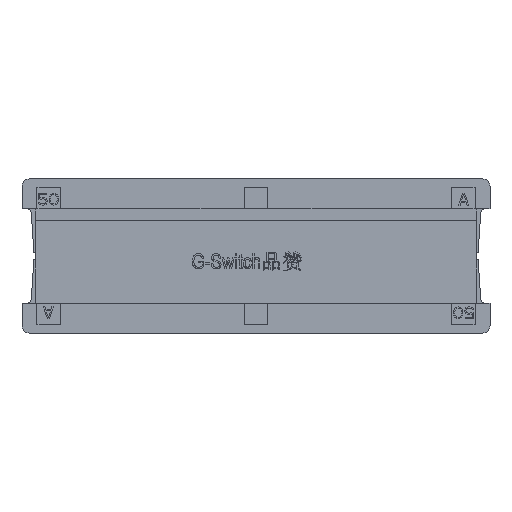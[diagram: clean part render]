
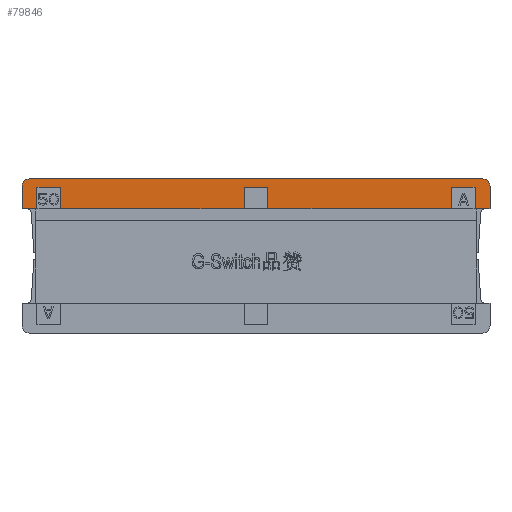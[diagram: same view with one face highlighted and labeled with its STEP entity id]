
A CAD part, front view. The second image highlights one B-rep face of the part: STEP entity #79846.
In plain terms, the highlighted planar face has unit normal (0, -1, 0).
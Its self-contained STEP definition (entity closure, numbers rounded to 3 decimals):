
#439 = VERTEX_POINT ( 'NONE', #17393 ) ;
#950 = VERTEX_POINT ( 'NONE', #146114 ) ;
#2261 = DIRECTION ( 'NONE',  ( 0., 0., 1. ) ) ;
#2960 = EDGE_CURVE ( 'NONE', #42815, #439, #7870, .T. ) ;
#3012 = VECTOR ( 'NONE', #84751, 1000. ) ;
#3740 = ORIENTED_EDGE ( 'NONE', *, *, #2960, .T. ) ;
#4237 = EDGE_CURVE ( 'NONE', #43965, #439, #27915, .T. ) ;
#4557 = CARTESIAN_POINT ( 'NONE',  ( 0.8, 0.105, 3.15 ) ) ;
#6587 = ORIENTED_EDGE ( 'NONE', *, *, #52590, .F. ) ;
#6777 = CARTESIAN_POINT ( 'NONE',  ( -15.15, 0.105, 5.15 ) ) ;
#7870 = CIRCLE ( 'NONE', #26044, 0.5 ) ;
#14094 = EDGE_LOOP ( 'NONE', ( #129776, #148936, #150100, #102744, #89843, #49369, #83345, #82443, #51290, #153837, #139037, #34607, #3740, #158335, #120800, #99511, #6587, #50008 ) ) ;
#14268 = CARTESIAN_POINT ( 'NONE',  ( 13.05, 0.105, 3.15 ) ) ;
#15682 = DIRECTION ( 'NONE',  ( 1., 0., 0. ) ) ;
#16024 = CARTESIAN_POINT ( 'NONE',  ( -0.8, 0.105, 3.15 ) ) ;
#16646 = DIRECTION ( 'NONE',  ( 0., 0., -1. ) ) ;
#16841 = CARTESIAN_POINT ( 'NONE',  ( -0.8, 0.105, 4.6 ) ) ;
#17393 = CARTESIAN_POINT ( 'NONE',  ( 15.15, 0.105, 5.15 ) ) ;
#17462 = CARTESIAN_POINT ( 'NONE',  ( 13.05, 0.105, 3.15 ) ) ;
#17518 = CARTESIAN_POINT ( 'NONE',  ( -15.15, 0.105, 5.15 ) ) ;
#18101 = VECTOR ( 'NONE', #133642, 1000. ) ;
#19180 = VERTEX_POINT ( 'NONE', #39200 ) ;
#19322 = VERTEX_POINT ( 'NONE', #125987 ) ;
#20859 = AXIS2_PLACEMENT_3D ( 'NONE', #136941, #86703, #2261 ) ;
#21174 = VECTOR ( 'NONE', #144095, 1000. ) ;
#22568 = DIRECTION ( 'NONE',  ( 1., 0., 0. ) ) ;
#25783 = VECTOR ( 'NONE', #117930, 1000. ) ;
#26044 = AXIS2_PLACEMENT_3D ( 'NONE', #52830, #103151, #101551 ) ;
#26542 = VECTOR ( 'NONE', #53146, 1000. ) ;
#27915 = LINE ( 'NONE', #6777, #25783 ) ;
#29309 = FACE_OUTER_BOUND ( 'NONE', #14094, .T. ) ;
#32400 = VECTOR ( 'NONE', #15682, 1000. ) ;
#33070 = CARTESIAN_POINT ( 'NONE',  ( -0.8, 0.105, 3.15 ) ) ;
#34607 = ORIENTED_EDGE ( 'NONE', *, *, #128965, .F. ) ;
#35210 = CARTESIAN_POINT ( 'NONE',  ( -13.05, 0.105, 4.6 ) ) ;
#35229 = CARTESIAN_POINT ( 'NONE',  ( 14.65, 0.105, 4.6 ) ) ;
#36000 = CARTESIAN_POINT ( 'NONE',  ( -15.65, 0.105, 3.15 ) ) ;
#36211 = VERTEX_POINT ( 'NONE', #136856 ) ;
#36724 = EDGE_CURVE ( 'NONE', #43965, #136451, #140000, .T. ) ;
#37837 = DIRECTION ( 'NONE',  ( -1., 0., 0. ) ) ;
#37867 = DIRECTION ( 'NONE',  ( 0., 0., 1. ) ) ;
#38638 = LINE ( 'NONE', #139164, #94867 ) ;
#39200 = CARTESIAN_POINT ( 'NONE',  ( 0.8, 0.105, 4.6 ) ) ;
#39452 = CARTESIAN_POINT ( 'NONE',  ( -14.65, 0.105, 3.15 ) ) ;
#41079 = AXIS2_PLACEMENT_3D ( 'NONE', #151835, #67472, #92617 ) ;
#42815 = VERTEX_POINT ( 'NONE', #106525 ) ;
#43965 = VERTEX_POINT ( 'NONE', #17518 ) ;
#45825 = EDGE_CURVE ( 'NONE', #19322, #36211, #83119, .T. ) ;
#47184 = EDGE_CURVE ( 'NONE', #150236, #950, #100893, .T. ) ;
#48399 = VECTOR ( 'NONE', #37867, 1000. ) ;
#48426 = VERTEX_POINT ( 'NONE', #36000 ) ;
#49369 = ORIENTED_EDGE ( 'NONE', *, *, #118521, .T. ) ;
#49796 = CARTESIAN_POINT ( 'NONE',  ( 15.65, 0.105, 3.15 ) ) ;
#50008 = ORIENTED_EDGE ( 'NONE', *, *, #76641, .T. ) ;
#51290 = ORIENTED_EDGE ( 'NONE', *, *, #159124, .T. ) ;
#51505 = EDGE_CURVE ( 'NONE', #90823, #19322, #126815, .T. ) ;
#51774 = LINE ( 'NONE', #16841, #104184 ) ;
#52475 = VERTEX_POINT ( 'NONE', #64573 ) ;
#52528 = LINE ( 'NONE', #16024, #142695 ) ;
#52590 = EDGE_CURVE ( 'NONE', #58265, #48426, #38638, .T. ) ;
#52830 = CARTESIAN_POINT ( 'NONE',  ( 15.15, 0.105, 4.65 ) ) ;
#53146 = DIRECTION ( 'NONE',  ( -1., 0., 0. ) ) ;
#58265 = VERTEX_POINT ( 'NONE', #95409 ) ;
#58595 = CARTESIAN_POINT ( 'NONE',  ( -0.8, 0.105, 4.6 ) ) ;
#61165 = LINE ( 'NONE', #99298, #3012 ) ;
#64573 = CARTESIAN_POINT ( 'NONE',  ( -0.8, 0.105, 3.15 ) ) ;
#67472 = DIRECTION ( 'NONE',  ( 0., 1., 0. ) ) ;
#70336 = CARTESIAN_POINT ( 'NONE',  ( 13.05, 0.105, 3.15 ) ) ;
#70930 = CARTESIAN_POINT ( 'NONE',  ( 14.65, 0.105, 4.6 ) ) ;
#73403 = VERTEX_POINT ( 'NONE', #70930 ) ;
#73724 = CARTESIAN_POINT ( 'NONE',  ( 15.65, 0.105, 3.15 ) ) ;
#75344 = DIRECTION ( 'NONE',  ( 1., 0., 0. ) ) ;
#76641 = EDGE_CURVE ( 'NONE', #58265, #90823, #99547, .T. ) ;
#79123 = CARTESIAN_POINT ( 'NONE',  ( -15.65, 0.105, 4.65 ) ) ;
#79846 = ADVANCED_FACE ( 'NONE', ( #29309 ), #142047, .F. ) ;
#80752 = LINE ( 'NONE', #79123, #119795 ) ;
#82443 = ORIENTED_EDGE ( 'NONE', *, *, #145129, .T. ) ;
#83119 = LINE ( 'NONE', #35210, #99849 ) ;
#83345 = ORIENTED_EDGE ( 'NONE', *, *, #104565, .F. ) ;
#84399 = VECTOR ( 'NONE', #84737, 1000. ) ;
#84737 = DIRECTION ( 'NONE',  ( 0., 0., -1. ) ) ;
#84751 = DIRECTION ( 'NONE',  ( 0., 0., -1. ) ) ;
#85734 = LINE ( 'NONE', #70336, #21174 ) ;
#86703 = DIRECTION ( 'NONE',  ( 0., -1., 0. ) ) ;
#88705 = VECTOR ( 'NONE', #22568, 1000. ) ;
#89186 = CARTESIAN_POINT ( 'NONE',  ( -14.65, 0.105, 4.6 ) ) ;
#89843 = ORIENTED_EDGE ( 'NONE', *, *, #104293, .T. ) ;
#90334 = CARTESIAN_POINT ( 'NONE',  ( -14.65, 0.105, 4.6 ) ) ;
#90823 = VERTEX_POINT ( 'NONE', #89186 ) ;
#92617 = DIRECTION ( 'NONE',  ( 1., 0., 0. ) ) ;
#94867 = VECTOR ( 'NONE', #37837, 1000. ) ;
#95409 = CARTESIAN_POINT ( 'NONE',  ( -14.65, 0.105, 3.15 ) ) ;
#95928 = CARTESIAN_POINT ( 'NONE',  ( -15.65, 0.105, 4.65 ) ) ;
#96097 = EDGE_CURVE ( 'NONE', #73403, #950, #146345, .T. ) ;
#99298 = CARTESIAN_POINT ( 'NONE',  ( 15.65, 0.105, 4.65 ) ) ;
#99511 = ORIENTED_EDGE ( 'NONE', *, *, #104721, .T. ) ;
#99547 = LINE ( 'NONE', #39452, #48399 ) ;
#99849 = VECTOR ( 'NONE', #132571, 1000. ) ;
#100893 = LINE ( 'NONE', #49796, #107966 ) ;
#101551 = DIRECTION ( 'NONE',  ( 1., 0., 0. ) ) ;
#102744 = ORIENTED_EDGE ( 'NONE', *, *, #154884, .T. ) ;
#103151 = DIRECTION ( 'NONE',  ( 0., -1., 0. ) ) ;
#103227 = EDGE_CURVE ( 'NONE', #52475, #36211, #52528, .T. ) ;
#104184 = VECTOR ( 'NONE', #75344, 1000. ) ;
#104293 = EDGE_CURVE ( 'NONE', #131690, #19180, #51774, .T. ) ;
#104565 = EDGE_CURVE ( 'NONE', #119424, #138863, #135973, .T. ) ;
#104721 = EDGE_CURVE ( 'NONE', #136451, #48426, #80752, .T. ) ;
#106525 = CARTESIAN_POINT ( 'NONE',  ( 15.65, 0.105, 4.65 ) ) ;
#107799 = LINE ( 'NONE', #120756, #88705 ) ;
#107966 = VECTOR ( 'NONE', #126807, 1000. ) ;
#110651 = LINE ( 'NONE', #148728, #134403 ) ;
#117930 = DIRECTION ( 'NONE',  ( 1., 0., 0. ) ) ;
#118521 = EDGE_CURVE ( 'NONE', #19180, #138863, #110651, .T. ) ;
#119424 = VERTEX_POINT ( 'NONE', #17462 ) ;
#119795 = VECTOR ( 'NONE', #16646, 1000. ) ;
#120756 = CARTESIAN_POINT ( 'NONE',  ( 13.05, 0.105, 4.6 ) ) ;
#120800 = ORIENTED_EDGE ( 'NONE', *, *, #36724, .T. ) ;
#125984 = DIRECTION ( 'NONE',  ( 0., 0., -1. ) ) ;
#125987 = CARTESIAN_POINT ( 'NONE',  ( -13.05, 0.105, 4.6 ) ) ;
#126807 = DIRECTION ( 'NONE',  ( -1., 0., 0. ) ) ;
#126815 = LINE ( 'NONE', #90334, #32400 ) ;
#128965 = EDGE_CURVE ( 'NONE', #42815, #150236, #61165, .T. ) ;
#129638 = CARTESIAN_POINT ( 'NONE',  ( 13.05, 0.105, 4.6 ) ) ;
#129776 = ORIENTED_EDGE ( 'NONE', *, *, #51505, .T. ) ;
#131690 = VERTEX_POINT ( 'NONE', #58595 ) ;
#132571 = DIRECTION ( 'NONE',  ( 0., 0., -1. ) ) ;
#133642 = DIRECTION ( 'NONE',  ( 0., 0., 1. ) ) ;
#134403 = VECTOR ( 'NONE', #125984, 1000. ) ;
#135054 = VERTEX_POINT ( 'NONE', #129638 ) ;
#135242 = LINE ( 'NONE', #33070, #18101 ) ;
#135973 = LINE ( 'NONE', #14268, #26542 ) ;
#136451 = VERTEX_POINT ( 'NONE', #95928 ) ;
#136856 = CARTESIAN_POINT ( 'NONE',  ( -13.05, 0.105, 3.15 ) ) ;
#136941 = CARTESIAN_POINT ( 'NONE',  ( -15.15, 0.105, 4.65 ) ) ;
#138863 = VERTEX_POINT ( 'NONE', #4557 ) ;
#139037 = ORIENTED_EDGE ( 'NONE', *, *, #47184, .F. ) ;
#139164 = CARTESIAN_POINT ( 'NONE',  ( -14.65, 0.105, 3.15 ) ) ;
#140000 = CIRCLE ( 'NONE', #20859, 0.5 ) ;
#142047 = PLANE ( 'NONE',  #41079 ) ;
#142695 = VECTOR ( 'NONE', #151502, 1000. ) ;
#144095 = DIRECTION ( 'NONE',  ( 0., 0., 1. ) ) ;
#145129 = EDGE_CURVE ( 'NONE', #119424, #135054, #85734, .T. ) ;
#146114 = CARTESIAN_POINT ( 'NONE',  ( 14.65, 0.105, 3.15 ) ) ;
#146345 = LINE ( 'NONE', #35229, #84399 ) ;
#148728 = CARTESIAN_POINT ( 'NONE',  ( 0.8, 0.105, 4.6 ) ) ;
#148936 = ORIENTED_EDGE ( 'NONE', *, *, #45825, .T. ) ;
#150100 = ORIENTED_EDGE ( 'NONE', *, *, #103227, .F. ) ;
#150236 = VERTEX_POINT ( 'NONE', #73724 ) ;
#151502 = DIRECTION ( 'NONE',  ( -1., 0., 0. ) ) ;
#151835 = CARTESIAN_POINT ( 'NONE',  ( 0., 0.105, 4.15 ) ) ;
#153837 = ORIENTED_EDGE ( 'NONE', *, *, #96097, .T. ) ;
#154884 = EDGE_CURVE ( 'NONE', #52475, #131690, #135242, .T. ) ;
#158335 = ORIENTED_EDGE ( 'NONE', *, *, #4237, .F. ) ;
#159124 = EDGE_CURVE ( 'NONE', #135054, #73403, #107799, .T. ) ;
